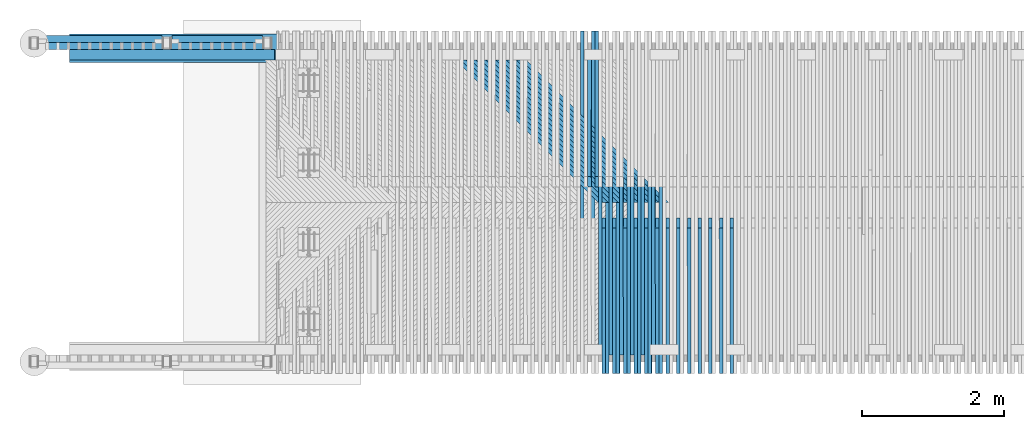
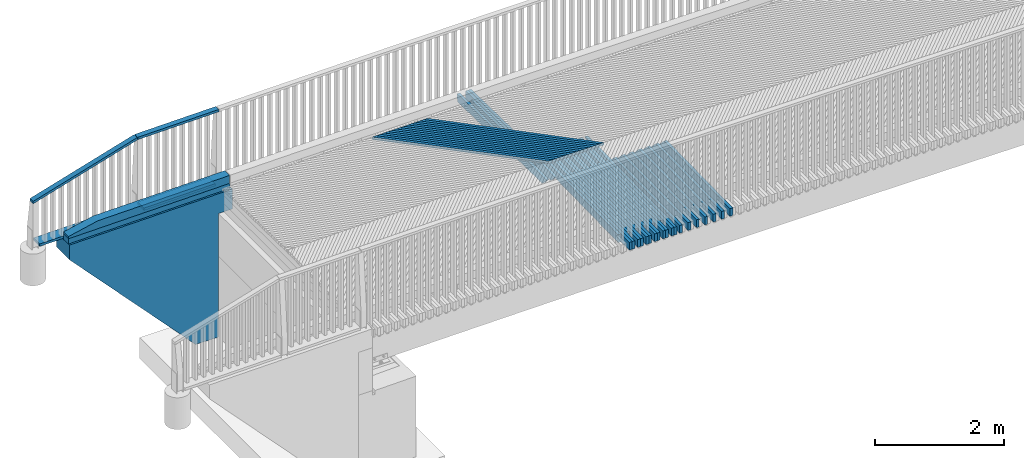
# One storey, part 20 of 47: 50 beams.
"""IFC2X3 building model written with IfcOpenShell, lengths in millimetres."""

from ifc_helpers import new_model, si_unit, frame, origin_with_axes, place, context, subcontext, project, spatial, faceted_brep, material, type_object, element, save


model = new_model("IFC2X3")

# Units and contexts
model_context = context("Model", 3, precision=1e-05, world=origin_with_axes())
body_context = subcontext(model_context, "Body", "Model", "MODEL_VIEW")
ifc_project = project(units=[si_unit("LENGTHUNIT", "METRE", prefix="MILLI"), si_unit("AREAUNIT", "SQUARE_METRE"), si_unit("VOLUMEUNIT", "CUBIC_METRE"), si_unit("MASSUNIT", "GRAM", prefix="KILO"), si_unit("TIMEUNIT", "SECOND"), si_unit("PLANEANGLEUNIT", "RADIAN"), si_unit("SOLIDANGLEUNIT", "STERADIAN"), si_unit("THERMODYNAMICTEMPERATUREUNIT", "DEGREE_CELSIUS"), si_unit("LUMINOUSINTENSITYUNIT", "LUMEN")], contexts=[model_context])

# Site, building, storey
site_placement = place(None, origin_with_axes())
site = spatial("IfcSite", under=ifc_project, at=site_placement, Name="Undefined", CompositionType="ELEMENT")
building_placement = place(site_placement, origin_with_axes())
building = spatial("IfcBuilding", under=site, at=building_placement, Name="Undefined", CompositionType="ELEMENT")
storey_placement = place(building_placement, origin_with_axes())
storey = spatial("IfcBuildingStorey", under=building, at=storey_placement, Name="Undefined", CompositionType="ELEMENT", Elevation=0.0)

# Beams
ifc_material_1 = material(Name="TIMBER/Timber_Undefined")
beam_type_1 = type_object("IfcBeamType", Name="95*45", PredefinedType="NOTDEFINED")
beam_1_placement = place(storey_placement, frame((-2047.34558165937, 64562.487908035, 4509.17778679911), z_axis=(0.0, 1.0, 0.0), x_axis=(0.999901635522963, 0.0, 0.0140256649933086)))
element("IfcBeam", 1, at=beam_1_placement, inside=storey, type_object=beam_type_1, material=ifc_material_1, Name="YLÄJOHDE", ObjectType="95*45", context=body_context, shape_type="Brep", body=[
    faceted_brep([(10.030991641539, 22.4999999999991, -47.5), (10.030991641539, 22.4999999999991, 47.5), (1460.17402369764, 22.4999999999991, 47.5), (1460.17402369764, 22.4999999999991, -47.5), (10.662208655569, -22.5, 47.5), (1460.80524071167, -22.5, 47.5), (10.662208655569, -22.5, -47.5), (1460.80524071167, -22.5, -47.5)], [[[0, 1, 2, 3]], [[1, 4, 5, 2]], [[4, 6, 7, 5]], [[6, 0, 3, 7]], [[5, 7, 3, 2]], [[6, 4, 1, 0]]]),
])
beam_2_placement = place(storey_placement, frame((-2040.59645881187, 64562.4900359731, 4510.12573356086), z_axis=(0.0, 1.0, 0.0), x_axis=(-0.958249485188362, 0.0, -0.285933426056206)))
element("IfcBeam", 2, at=beam_2_placement, inside=storey, type_object=beam_type_1, material=ifc_material_1, Name="YLÄJOHDE", ObjectType="95*45", context=body_context, shape_type="Brep", body=[
    faceted_brep([(4.00216176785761e-05, 22.5000000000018, -47.5), (4.00216176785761e-05, 22.5000000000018, 47.5), (1946.25728182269, 22.5000000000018, 47.5), (1946.25728182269, 22.5000000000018, -47.5), (13.4276539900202, -22.4999999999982, 47.5), (1959.6848957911, -22.4999999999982, 47.5), (13.4276539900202, -22.4999999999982, -47.5), (1959.6848957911, -22.4999999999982, -47.5)], [[[0, 1, 2, 3]], [[1, 4, 5, 2]], [[4, 6, 7, 5]], [[6, 0, 3, 7]], [[5, 7, 3, 2]], [[6, 4, 1, 0]]]),
])
beam_type_2 = type_object("IfcBeamType", Name="195*45", PredefinedType="NOTDEFINED")
beam_3_placement = place(storey_placement, frame((-3791.71869800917, 64612.4900299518, 3105.29183869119), z_axis=(0.0, 1.0, 0.0), x_axis=(0.999901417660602, 0.0, 0.0140411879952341)))
element("IfcBeam", 3, at=beam_3_placement, inside=storey, type_object=beam_type_2, material=ifc_material_1, Name="BEAM", ObjectType="195*45", context=body_context, shape_type="Brep", body=[
    faceted_brep([(0.0, 22.5, -97.5), (0.0, 22.5, 97.5), (1724.99699880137, 22.5, 97.5), (1724.99699880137, 22.5, -97.5), (0.0, -22.5, 97.5), (1724.99699880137, -22.4999999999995, 97.5), (0.0, -22.5, -97.5), (1724.99699880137, -22.4999999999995, -97.5)], [[[0, 1, 2, 3]], [[1, 4, 5, 2]], [[4, 6, 7, 5]], [[6, 0, 3, 7]], [[5, 7, 3, 2]], [[6, 4, 1, 0]]]),
])
beam_4_placement = place(storey_placement, frame((-1926.69935131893, 64612.4900299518, 3131.48945565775), z_axis=(0.0, 1.0, 0.0), x_axis=(0.999901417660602, 0.0, 0.0140411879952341)))
element("IfcBeam", 4, at=beam_4_placement, inside=storey, type_object=beam_type_2, material=ifc_material_1, Name="BEAM", ObjectType="195*45", context=body_context, shape_type="Brep", body=[
    faceted_brep([(0.0, 22.5, -97.5), (0.0, 22.5, 97.5), (1275.1508080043, 22.5, 97.5), (1275.1508080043, 22.5, -97.5), (0.0, -22.5, 97.5), (1275.15080800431, -22.4999999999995, 97.5), (0.0, -22.5, -97.5), (1275.15080800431, -22.4999999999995, -97.5)], [[[0, 1, 2, 3]], [[1, 4, 5, 2]], [[4, 6, 7, 5]], [[6, 0, 3, 7]], [[5, 7, 3, 2]], [[6, 4, 1, 0]]]),
])
beam_type_3 = type_object("IfcBeamType", Name="150*100", PredefinedType="NOTDEFINED")
beam_5_placement = place(storey_placement, frame((-3364.03058800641, 64439.9999999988, 3118.67572907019), z_axis=(0.0, -1.0, 0.0), x_axis=(0.999904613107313, 0.0, 0.0138117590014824)))
element("IfcBeam", 5, at=beam_5_placement, inside=storey, type_object=beam_type_3, material=ifc_material_1, Name="TÖRMÄYSJOHDE", ObjectType="150*100", context=body_context, shape_type="Brep", body=[
    faceted_brep([(-3.63797880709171e-12, 50.0, -75.0), (-3.63797880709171e-12, 50.0, 75.0), (2885.27521749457, 50.0, 75.0), (2885.27521749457, 50.0, -75.0), (0.0, -49.9999999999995, 75.0), (2885.27521749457, -49.9999999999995, 75.0), (0.0, -49.9999999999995, -75.0), (2885.27521749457, -49.9999999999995, -75.0)], [[[0, 1, 2, 3]], [[1, 4, 5, 2]], [[4, 6, 7, 5]], [[6, 0, 3, 7]], [[5, 7, 3, 2]], [[6, 4, 1, 0]]]),
])
beam_type_4 = type_object("IfcBeamType", Name="150*150", PredefinedType="NOTDEFINED")
beam_6_placement = place(storey_placement, frame((-3366.03588197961, 64439.9999999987, 3243.66334439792), z_axis=(0.0, -1.0, 0.0), x_axis=(0.999904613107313, 0.0, 0.0138117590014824)))
element("IfcBeam", 6, at=beam_6_placement, inside=storey, type_object=beam_type_4, material=ifc_material_1, Name="TÖRMÄYSJOHDE", ObjectType="150*150", context=body_context, shape_type="Brep", body=[
    faceted_brep([(0.0, -75.0000000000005, 75.0), (0.0, -75.0000000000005, -75.0), (2885.27521749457, -74.9999999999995, -75.0), (2885.27521749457, -74.9999999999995, 75.0), (2885.27521749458, 75.0, -75.0), (2885.27521749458, 75.0, 75.0), (529.511118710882, 75.0, -75.0), (529.511118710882, 75.0, 75.0), (4.54747350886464e-13, -33.1222400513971, 75.0), (4.54747350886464e-13, -33.1222400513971, -75.0)], [[[0, 1, 2, 3]], [[3, 2, 4, 5]], [[5, 4, 6, 7]], [[0, 3, 5, 7, 8]], [[1, 0, 8, 9]], [[4, 2, 1, 9, 6]], [[8, 7, 6, 9]]]),
])
ifc_material_2 = material(Name="CONCRETE/Concrete_Undefined")
beam_type_5 = type_object("IfcBeamType", Name="2800*400", PredefinedType="NOTDEFINED")
beam_7_placement = place(storey_placement, frame((-430.340033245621, 64530.0, 1712.66804762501), z_axis=(-0.0140428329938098, 0.0, 0.999901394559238), x_axis=(-0.999901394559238, 0.0, -0.0140428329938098)))
element("IfcBeam", 7, at=beam_7_placement, inside=storey, type_object=beam_type_5, material=ifc_material_2, Name="SIIPIMUURI", ObjectType="2800*400", context=body_context, shape_type="Brep", body=[
    faceted_brep([(5.63100911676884e-07, 200.0, 1400.0), (0.280884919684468, -200.000000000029, 1380.0), (2915.56834818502, -200.0, 1380.0), (2915.28746382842, 200.0, 1400.0), (270.457242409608, 199.999999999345, -54.8754727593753), (270.457242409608, -200.0, -54.8754727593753), (255.29098277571, -200.0, 1025.01803336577), (255.29098277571, 199.999999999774, 1025.01803336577), (288.066954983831, 200.0, -1308.75182153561), (288.066954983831, -200.0, -1308.75182153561), (697.173583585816, 200.0, -1303.00623892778), (697.173583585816, -200.0, -1303.00623892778), (2919.22031514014, 200.0, 1119.96651154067), (2919.22031514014, -200.0, 1119.96651154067), (5.31563413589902, -200.0, 1021.50732511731), (5.31563413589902, 199.999999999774, 1021.50732511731)], [[[0, 1, 2, 3]], [[4, 5, 6, 7]], [[8, 9, 5, 4]], [[10, 11, 9, 8]], [[12, 13, 11, 10]], [[13, 12, 3, 2]], [[14, 6, 5, 9, 11, 13, 2, 1]], [[7, 6, 14, 15]], [[3, 12, 10, 8, 4, 7, 15, 0]], [[15, 14, 1, 0]]]),
])
beam_type_6 = type_object("IfcBeamType", Name="150*50", PredefinedType="NOTDEFINED")
beam_8_placement = place(storey_placement, frame((3849.18317563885, 64771.443807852, 3073.67904210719), z_axis=(-0.00697445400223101, 0.0199960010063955, 0.99977573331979), x_axis=(-0.00013948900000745, -0.999800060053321, 0.0199955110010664)))
element("IfcBeam", 8, at=beam_8_placement, inside=storey, type_object=beam_type_6, material=ifc_material_1, Name="BEAM", ObjectType="150*50", context=body_context, shape_type="Brep", body=[
    faceted_brep([(6.18456397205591e-09, -24.9999999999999, -75.0000000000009), (6.18456397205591e-09, 24.9999999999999, -75.0), (2633.00494983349, 25.0000000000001, -75.0000000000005), (2633.00495050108, -24.9999999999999, -75.0000000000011), (-6.1918399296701e-09, -24.9999999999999, 74.9999999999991), (-6.19911588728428e-09, 25.0, 75.0), (2408.42506497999, 24.9999999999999, 75.0), (2768.5924870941, 25.0, 60.5875375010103), (2768.59248707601, -25.0, 60.5875366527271), (2408.4250638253, -25.0, 74.9999999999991)], [[[0, 1, 2, 3]], [[0, 4, 5, 1]], [[2, 1, 5, 6, 7]], [[3, 2, 7, 8]], [[4, 0, 3, 8, 9]], [[5, 4, 9, 6]], [[8, 7, 6, 9]]]),
])
beam_9_placement = place(storey_placement, frame((4049.24684445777, 64771.4438078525, 3075.02403244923), z_axis=(-0.0065591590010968, 0.0199960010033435, 0.999778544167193), x_axis=(-0.000131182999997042, -0.999800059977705, 0.0199955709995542)))
element("IfcBeam", 9, at=beam_9_placement, inside=storey, type_object=beam_type_6, material=ifc_material_1, Name="BEAM", ObjectType="150*50", context=body_context, shape_type="Brep", body=[
    faceted_brep([(6.18456397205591e-09, -24.9999999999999, -75.0000000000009), (-6.1918399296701e-09, -24.9999999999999, 74.9999999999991), (-6.19911588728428e-09, 25.0, 75.0), (6.18456397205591e-09, 24.9999999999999, -75.0), (2186.42645864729, 25.0, -75.0), (2186.42645915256, -25.0000000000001, -75.0), (2047.96936034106, -25.0000000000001, 75.0), (2047.96935975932, 25.0, 75.0)], [[[0, 1, 2, 3]], [[0, 3, 4, 5]], [[1, 0, 5, 6]], [[2, 1, 6, 7]], [[3, 2, 7, 4]], [[6, 5, 4, 7]]]),
])
beam_10_placement = place(storey_placement, frame((3949.19517475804, 64513.4953923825, 3079.51813535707), z_axis=(-0.00672527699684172, 0.0199960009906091, 0.999777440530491), x_axis=(-0.000134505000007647, -0.999800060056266, 0.0199955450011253)))
element("IfcBeam", 10, at=beam_10_placement, inside=storey, type_object=beam_type_6, material=ifc_material_1, Name="BEAM", ObjectType="150*50", context=body_context, shape_type="Brep", body=[
    faceted_brep([(6.18456397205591e-09, -24.9999999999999, -75.0000000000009), (-6.1918399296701e-09, -24.9999999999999, 74.9999999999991), (-6.19911588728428e-09, 25.0, 75.0), (6.18456397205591e-09, 24.9999999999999, -75.0), (1928.42646506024, 25.0, -75.0), (1928.4264649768, -24.9999999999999, -75.0), (1789.96936577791, -24.9999999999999, 75.0), (1789.96936586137, 25.0, 75.0000000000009)], [[[0, 1, 2, 3]], [[0, 3, 4, 5]], [[1, 0, 5, 6]], [[2, 1, 6, 7]], [[3, 2, 7, 4]], [[6, 5, 4, 7]]]),
])
beam_11_placement = place(storey_placement, frame((3999.2085009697, 64771.443807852, 3074.69486708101), z_axis=(-0.00672527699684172, 0.0199960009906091, 0.999777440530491), x_axis=(-0.000134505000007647, -0.999800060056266, 0.0199955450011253)))
element("IfcBeam", 11, at=beam_11_placement, inside=storey, type_object=beam_type_6, material=ifc_material_1, Name="BEAM", ObjectType="150*50", context=body_context, shape_type="Brep", body=[
    faceted_brep([(6.18456397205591e-09, -24.9999999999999, -75.0000000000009), (6.18456397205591e-09, 24.9999999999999, -75.0), (2633.00494983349, 25.0000000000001, -75.0000000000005), (2633.00495050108, -24.9999999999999, -75.0000000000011), (-6.1918399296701e-09, -24.9999999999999, 74.9999999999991), (-6.19911588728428e-09, 25.0, 75.0), (2408.42506497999, 24.9999999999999, 75.0), (2768.5924870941, 25.0, 60.5875375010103), (2768.59248707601, -25.0, 60.5875366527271), (2408.4250638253, -25.0, 74.9999999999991)], [[[0, 1, 2, 3]], [[0, 4, 5, 1]], [[2, 1, 5, 6, 7]], [[3, 2, 7, 8]], [[4, 0, 3, 8, 9]], [[5, 4, 9, 6]], [[8, 7, 6, 9]]]),
])
beam_12_placement = place(storey_placement, frame((4199.27249879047, 59958.5561921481, 3075.98999490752), z_axis=(-0.00630998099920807, -0.0199960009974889, 0.99978014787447), x_axis=(-0.000126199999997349, 0.999800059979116, 0.0199956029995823)))
element("IfcBeam", 12, at=beam_12_placement, inside=storey, type_object=beam_type_6, material=ifc_material_1, Name="BEAM", ObjectType="150*50", context=body_context, shape_type="Brep", body=[
    faceted_brep([(6.18456397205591e-09, -24.9999999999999, -75.0000000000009), (-6.1918399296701e-09, -24.9999999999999, 74.9999999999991), (-6.19911588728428e-09, 25.0, 75.0), (6.18456397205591e-09, 24.9999999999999, -75.0), (2633.00494983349, 25.0000000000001, -75.0000000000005), (2633.00495050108, -24.9999999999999, -75.0000000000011), (2768.59248707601, -25.0, 60.5875366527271), (2408.42499905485, -25.0, 74.9999999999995), (2408.42501428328, 25.0000000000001, 74.9999999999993), (2768.5924870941, 25.0, 60.5875375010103)], [[[0, 1, 2, 3]], [[0, 3, 4, 5]], [[1, 0, 5, 6, 7]], [[2, 1, 7, 8]], [[4, 3, 2, 8, 9]], [[5, 4, 9, 6]], [[8, 7, 6, 9]]]),
])
beam_13_placement = place(storey_placement, frame((4099.22195227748, 60216.5046076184, 3080.50903385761), z_axis=(-0.0064760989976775, -0.0199960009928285, 0.999779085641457), x_axis=(-0.000129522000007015, 0.999800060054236, 0.0199955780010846)))
element("IfcBeam", 13, at=beam_13_placement, inside=storey, type_object=beam_type_6, material=ifc_material_1, Name="BEAM", ObjectType="150*50", context=body_context, shape_type="Brep", body=[
    faceted_brep([(6.18456397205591e-09, -24.9999999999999, -75.0000000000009), (-6.1918399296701e-09, -24.9999999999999, 74.9999999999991), (-6.19911588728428e-09, 25.0, 75.0), (6.18456397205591e-09, 24.9999999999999, -75.0), (2375.00494220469, 24.9999999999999, -75.0000000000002), (2375.00494218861, -25.0, -75.0), (2510.59248711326, -25.0, 60.5875455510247), (2150.42518973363, -25.0, 75.0000000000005), (2150.42518840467, 25.0, 74.9999999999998), (2510.59248707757, 25.0, 60.5875454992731)], [[[0, 1, 2, 3]], [[0, 3, 4, 5]], [[1, 0, 5, 6, 7]], [[2, 1, 7, 8]], [[4, 3, 2, 8, 9]], [[5, 4, 9, 6]], [[8, 7, 6, 9]]]),
])
beam_14_placement = place(storey_placement, frame((4149.23493195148, 59958.5561921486, 3075.67330631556), z_axis=(-0.0064760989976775, -0.0199960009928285, 0.999779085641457), x_axis=(-0.000129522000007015, 0.999800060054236, 0.0199955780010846)))
element("IfcBeam", 14, at=beam_14_placement, inside=storey, type_object=beam_type_6, material=ifc_material_1, Name="BEAM", ObjectType="150*50", context=body_context, shape_type="Brep", body=[
    faceted_brep([(6.18456397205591e-09, -24.9999999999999, -75.0000000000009), (-6.1918399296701e-09, -24.9999999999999, 74.9999999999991), (-6.19911588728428e-09, 25.0, 75.0), (6.18456397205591e-09, 24.9999999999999, -75.0), (2186.42645915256, -25.0000000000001, -75.0), (2047.96936034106, -25.0000000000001, 75.0), (2047.96935975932, 25.0, 75.0), (2186.42645864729, 25.0, -75.0)], [[[0, 1, 2, 3]], [[1, 0, 4, 5]], [[2, 1, 5, 6]], [[3, 2, 6, 7]], [[0, 3, 7, 4]], [[5, 4, 7, 6]]]),
])
beam_15_placement = place(storey_placement, frame((4349.29838921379, 59958.5561921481, 3076.91856599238), z_axis=(-0.00606080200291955, -0.0199960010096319, 0.999781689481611), x_axis=(-0.000121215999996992, 0.999800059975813, 0.0199956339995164)))
element("IfcBeam", 15, at=beam_15_placement, inside=storey, type_object=beam_type_6, material=ifc_material_1, Name="BEAM", ObjectType="150*50", context=body_context, shape_type="Brep", body=[
    faceted_brep([(6.18456397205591e-09, -24.9999999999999, -75.0000000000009), (-6.1918399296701e-09, -24.9999999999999, 74.9999999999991), (-6.19911588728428e-09, 25.0, 75.0), (6.18456397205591e-09, 24.9999999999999, -75.0), (2633.00494983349, 25.0000000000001, -75.0000000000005), (2633.00495050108, -24.9999999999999, -75.0000000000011), (2768.59248707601, -25.0, 60.5875366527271), (2408.42499905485, -25.0, 74.9999999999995), (2408.42501428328, 25.0000000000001, 74.9999999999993), (2768.5924870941, 25.0, 60.5875375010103)], [[[0, 1, 2, 3]], [[0, 3, 4, 5]], [[1, 0, 5, 6, 7]], [[2, 1, 7, 8]], [[4, 3, 2, 8, 9]], [[5, 4, 9, 6]], [[8, 7, 6, 9]]]),
])
beam_16_placement = place(storey_placement, frame((4249.24897210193, 60216.5046076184, 3081.46254070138), z_axis=(-0.0062269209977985, -0.0199960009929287, 0.999780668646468), x_axis=(-0.000124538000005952, 0.999800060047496, 0.0199956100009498)))
element("IfcBeam", 16, at=beam_16_placement, inside=storey, type_object=beam_type_6, material=ifc_material_1, Name="BEAM", ObjectType="150*50", context=body_context, shape_type="Brep", body=[
    faceted_brep([(6.18456397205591e-09, -24.9999999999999, -75.0000000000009), (-6.1918399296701e-09, -24.9999999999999, 74.9999999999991), (-6.19911588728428e-09, 25.0, 75.0), (6.18456397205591e-09, 24.9999999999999, -75.0), (2375.00494220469, 24.9999999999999, -75.0000000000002), (2375.00494218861, -25.0, -75.0), (2510.59248711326, -25.0, 60.5875455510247), (2150.42518973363, -25.0, 75.0000000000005), (2150.42518840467, 25.0, 74.9999999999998), (2510.59248707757, 25.0, 60.5875454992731)], [[[0, 1, 2, 3]], [[0, 3, 4, 5]], [[1, 0, 5, 6, 7]], [[2, 1, 7, 8]], [[4, 3, 2, 8, 9]], [[5, 4, 9, 6]], [[8, 7, 6, 9]]]),
])
beam_17_placement = place(storey_placement, frame((4299.26074499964, 59958.5561921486, 3076.61434842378), z_axis=(-0.0062269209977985, -0.0199960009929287, 0.999780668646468), x_axis=(-0.000124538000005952, 0.999800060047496, 0.0199956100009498)))
element("IfcBeam", 17, at=beam_17_placement, inside=storey, type_object=beam_type_6, material=ifc_material_1, Name="BEAM", ObjectType="150*50", context=body_context, shape_type="Brep", body=[
    faceted_brep([(6.18456397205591e-09, -24.9999999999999, -75.0000000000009), (-6.1918399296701e-09, -24.9999999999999, 74.9999999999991), (-6.19911588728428e-09, 25.0, 75.0), (6.18456397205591e-09, 24.9999999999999, -75.0), (2186.42645915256, -25.0000000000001, -75.0), (2047.96936034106, -25.0000000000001, 75.0), (2047.96935975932, 25.0, 75.0), (2186.42645864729, 25.0, -75.0)], [[[0, 1, 2, 3]], [[1, 0, 4, 5]], [[2, 1, 5, 6]], [[3, 2, 6, 7]], [[0, 3, 7, 4]], [[5, 4, 7, 6]]]),
])
beam_18_placement = place(storey_placement, frame((4499.3245064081, 59958.5561921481, 3077.80974564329), z_axis=(-0.00581162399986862, -0.0199960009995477, 0.999783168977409), x_axis=(-0.000116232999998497, 0.999800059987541, 0.0199956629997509)))
element("IfcBeam", 18, at=beam_18_placement, inside=storey, type_object=beam_type_6, material=ifc_material_1, Name="BEAM", ObjectType="150*50", context=body_context, shape_type="Brep", body=[
    faceted_brep([(6.18456397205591e-09, -24.9999999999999, -75.0000000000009), (-6.1918399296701e-09, -24.9999999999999, 74.9999999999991), (-6.19911588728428e-09, 25.0, 75.0), (6.18456397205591e-09, 24.9999999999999, -75.0), (2633.00494983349, 25.0000000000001, -75.0000000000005), (2633.00495050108, -24.9999999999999, -75.0000000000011), (2768.59248707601, -25.0, 60.5875366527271), (2408.42499905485, -25.0, 74.9999999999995), (2408.42501428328, 25.0000000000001, 74.9999999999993), (2768.5924870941, 25.0, 60.5875375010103)], [[[0, 1, 2, 3]], [[0, 3, 4, 5]], [[1, 0, 5, 6, 7]], [[2, 1, 7, 8]], [[4, 3, 2, 8, 9]], [[5, 4, 9, 6]], [[8, 7, 6, 9]]]),
])
beam_19_placement = place(storey_placement, frame((4399.27622491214, 60216.5046076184, 3082.378655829), z_axis=(-0.0059777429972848, -0.0199960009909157, 0.999782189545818), x_axis=(-0.000119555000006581, 0.999800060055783, 0.0199956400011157)))
element("IfcBeam", 19, at=beam_19_placement, inside=storey, type_object=beam_type_6, material=ifc_material_1, Name="BEAM", ObjectType="150*50", context=body_context, shape_type="Brep", body=[
    faceted_brep([(6.18456397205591e-09, -24.9999999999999, -75.0000000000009), (-6.1918399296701e-09, -24.9999999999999, 74.9999999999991), (-6.19911588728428e-09, 25.0, 75.0), (6.18456397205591e-09, 24.9999999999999, -75.0), (2375.00494220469, 24.9999999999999, -75.0000000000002), (2375.00494218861, -25.0, -75.0), (2510.59248711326, -25.0, 60.5875455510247), (2150.42518973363, -25.0, 75.0000000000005), (2150.42518840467, 25.0, 74.9999999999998), (2510.59248707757, 25.0, 60.5875454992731)], [[[0, 1, 2, 3]], [[0, 3, 4, 5]], [[1, 0, 5, 6, 7]], [[2, 1, 7, 8]], [[4, 3, 2, 8, 9]], [[5, 4, 9, 6]], [[8, 7, 6, 9]]]),
])
beam_20_placement = place(storey_placement, frame((4449.28678792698, 59958.5561921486, 3077.51799911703), z_axis=(-0.0059777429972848, -0.0199960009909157, 0.999782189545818), x_axis=(-0.000119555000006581, 0.999800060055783, 0.0199956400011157)))
element("IfcBeam", 20, at=beam_20_placement, inside=storey, type_object=beam_type_6, material=ifc_material_1, Name="BEAM", ObjectType="150*50", context=body_context, shape_type="Brep", body=[
    faceted_brep([(6.18456397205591e-09, -24.9999999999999, -75.0000000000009), (-6.1918399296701e-09, -24.9999999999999, 74.9999999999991), (-6.19911588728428e-09, 25.0, 75.0), (6.18456397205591e-09, 24.9999999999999, -75.0), (2186.42645915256, -25.0000000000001, -75.0), (2047.96936034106, -25.0000000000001, 75.0), (2047.96935975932, 25.0, 75.0), (2186.42645864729, 25.0, -75.0)], [[[0, 1, 2, 3]], [[1, 0, 4, 5]], [[2, 1, 5, 6]], [[3, 2, 6, 7]], [[0, 3, 7, 4]], [[5, 4, 7, 6]]]),
])
beam_21_placement = place(storey_placement, frame((4649.3508410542, 59958.5561921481, 3078.66353380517), z_axis=(-0.0055624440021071, -0.0199960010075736, 0.9997845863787), x_axis=(-0.00011124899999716, 0.999800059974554, 0.0199956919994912)))
element("IfcBeam", 21, at=beam_21_placement, inside=storey, type_object=beam_type_6, material=ifc_material_1, Name="BEAM", ObjectType="150*50", context=body_context, shape_type="Brep", body=[
    faceted_brep([(6.18456397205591e-09, -24.9999999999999, -75.0000000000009), (-6.1918399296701e-09, -24.9999999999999, 74.9999999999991), (-6.19911588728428e-09, 25.0, 75.0), (6.18456397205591e-09, 24.9999999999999, -75.0), (2633.00494983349, 25.0000000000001, -75.0000000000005), (2633.00495050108, -24.9999999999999, -75.0000000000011), (2768.59248707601, -25.0, 60.5875366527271), (2408.42499905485, -25.0, 74.9999999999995), (2408.42501428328, 25.0000000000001, 74.9999999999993), (2768.5924870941, 25.0, 60.5875375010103)], [[[0, 1, 2, 3]], [[0, 3, 4, 5]], [[1, 0, 5, 6, 7]], [[2, 1, 7, 8]], [[4, 3, 2, 8, 9]], [[5, 4, 9, 6]], [[8, 7, 6, 9]]]),
])
beam_22_placement = place(storey_placement, frame((4549.30370138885, 60216.5046076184, 3083.25737918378), z_axis=(-0.00572856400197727, -0.0199960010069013, 0.999783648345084), x_axis=(-0.000114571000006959, 0.999800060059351, 0.0199956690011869)))
element("IfcBeam", 22, at=beam_22_placement, inside=storey, type_object=beam_type_6, material=ifc_material_1, Name="BEAM", ObjectType="150*50", context=body_context, shape_type="Brep", body=[
    faceted_brep([(6.18456397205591e-09, -24.9999999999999, -75.0000000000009), (-6.1918399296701e-09, -24.9999999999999, 74.9999999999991), (-6.19911588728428e-09, 25.0, 75.0), (6.18456397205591e-09, 24.9999999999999, -75.0), (2375.00494220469, 24.9999999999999, -75.0000000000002), (2375.00494218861, -25.0, -75.0), (2510.59248711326, -25.0, 60.5875455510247), (2150.42518973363, -25.0, 75.0000000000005), (2150.42518840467, 25.0, 74.9999999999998), (2510.59248707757, 25.0, 60.5875454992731)], [[[0, 1, 2, 3]], [[0, 3, 4, 5]], [[1, 0, 5, 6, 7]], [[2, 1, 7, 8]], [[4, 3, 2, 8, 9]], [[5, 4, 9, 6]], [[8, 7, 6, 9]]]),
])
beam_23_placement = place(storey_placement, frame((4599.31305141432, 59958.5561921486, 3078.38425833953), z_axis=(-0.00572856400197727, -0.0199960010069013, 0.999783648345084), x_axis=(-0.000114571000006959, 0.999800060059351, 0.0199956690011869)))
element("IfcBeam", 23, at=beam_23_placement, inside=storey, type_object=beam_type_6, material=ifc_material_1, Name="BEAM", ObjectType="150*50", context=body_context, shape_type="Brep", body=[
    faceted_brep([(6.18456397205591e-09, -24.9999999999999, -75.0000000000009), (-6.1918399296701e-09, -24.9999999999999, 74.9999999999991), (-6.19911588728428e-09, 25.0, 75.0), (6.18456397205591e-09, 24.9999999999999, -75.0), (2186.42645915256, -25.0000000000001, -75.0), (2047.96936034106, -25.0000000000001, 75.0), (2047.96935975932, 25.0, 75.0), (2186.42645864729, 25.0, -75.0)], [[[0, 1, 2, 3]], [[1, 0, 4, 5]], [[2, 1, 5, 6]], [[3, 2, 6, 7]], [[0, 3, 7, 4]], [[5, 4, 7, 6]]]),
])
beam_24_placement = place(storey_placement, frame((4799.3773838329, 59958.5561921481, 3079.47993042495), z_axis=(-0.00531326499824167, -0.0199960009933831, 0.999785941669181), x_axis=(-0.000106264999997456, 0.999800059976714, 0.0199957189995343)))
element("IfcBeam", 24, at=beam_24_placement, inside=storey, type_object=beam_type_6, material=ifc_material_1, Name="BEAM", ObjectType="150*50", context=body_context, shape_type="Brep", body=[
    faceted_brep([(6.18456397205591e-09, -24.9999999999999, -75.0000000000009), (-6.1918399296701e-09, -24.9999999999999, 74.9999999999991), (-6.19911588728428e-09, 25.0, 75.0), (6.18456397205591e-09, 24.9999999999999, -75.0), (2633.00494983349, 25.0000000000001, -75.0000000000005), (2633.00495050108, -24.9999999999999, -75.0000000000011), (2768.59248707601, -25.0, 60.5875366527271), (2408.42499905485, -25.0, 74.9999999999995), (2408.42501428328, 25.0000000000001, 74.9999999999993), (2768.5924870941, 25.0, 60.5875375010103)], [[[0, 1, 2, 3]], [[0, 3, 4, 5]], [[1, 0, 5, 6, 7]], [[2, 1, 7, 8]], [[4, 3, 2, 8, 9]], [[5, 4, 9, 6]], [[8, 7, 6, 9]]]),
])
beam_25_placement = place(storey_placement, frame((4699.3313922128, 60216.5046076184, 3084.09871071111), z_axis=(-0.00547938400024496, -0.0199960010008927, 0.999785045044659), x_axis=(-0.000109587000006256, 0.999800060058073, 0.0199956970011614)))
element("IfcBeam", 25, at=beam_25_placement, inside=storey, type_object=beam_type_6, material=ifc_material_1, Name="BEAM", ObjectType="150*50", context=body_context, shape_type="Brep", body=[
    faceted_brep([(6.18456397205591e-09, -24.9999999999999, -75.0000000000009), (-6.1918399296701e-09, -24.9999999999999, 74.9999999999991), (-6.19911588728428e-09, 25.0, 75.0), (6.18456397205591e-09, 24.9999999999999, -75.0), (2375.00494220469, 24.9999999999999, -75.0000000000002), (2375.00494218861, -25.0, -75.0), (2510.59248711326, -25.0, 60.5875455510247), (2150.42518973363, -25.0, 75.0000000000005), (2150.42518840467, 25.0, 74.9999999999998), (2510.59248707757, 25.0, 60.5875454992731)], [[[0, 1, 2, 3]], [[0, 3, 4, 5]], [[1, 0, 5, 6, 7]], [[2, 1, 7, 8]], [[4, 3, 2, 8, 9]], [[5, 4, 9, 6]], [[8, 7, 6, 9]]]),
])
beam_26_placement = place(storey_placement, frame((4749.33952614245, 59958.5561921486, 3079.21312603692), z_axis=(-0.00547938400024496, -0.0199960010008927, 0.999785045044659), x_axis=(-0.000109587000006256, 0.999800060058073, 0.0199956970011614)))
element("IfcBeam", 26, at=beam_26_placement, inside=storey, type_object=beam_type_6, material=ifc_material_1, Name="BEAM", ObjectType="150*50", context=body_context, shape_type="Brep", body=[
    faceted_brep([(6.18456397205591e-09, -24.9999999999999, -75.0000000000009), (-6.1918399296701e-09, -24.9999999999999, 74.9999999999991), (-6.19911588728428e-09, 25.0, 75.0), (6.18456397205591e-09, 24.9999999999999, -75.0), (2186.42645915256, -25.0000000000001, -75.0), (2047.96936034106, -25.0000000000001, 75.0), (2047.96935975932, 25.0, 75.0), (2186.42645864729, 25.0, -75.0)], [[[0, 1, 2, 3]], [[1, 0, 4, 5]], [[2, 1, 5, 6]], [[3, 2, 6, 7]], [[0, 3, 7, 4]], [[5, 4, 7, 6]]]),
])
beam_27_placement = place(storey_placement, frame((4949.40412542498, 59958.5561921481, 3080.25893545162), z_axis=(-0.00506408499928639, -0.0199960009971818, 0.999787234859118), x_axis=(-0.000101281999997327, 0.999800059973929, 0.0199957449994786)))
element("IfcBeam", 27, at=beam_27_placement, inside=storey, type_object=beam_type_6, material=ifc_material_1, Name="BEAM", ObjectType="150*50", context=body_context, shape_type="Brep", body=[
    faceted_brep([(6.18456397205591e-09, -24.9999999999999, -75.0000000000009), (-6.1918399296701e-09, -24.9999999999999, 74.9999999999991), (-6.19911588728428e-09, 25.0, 75.0), (6.18456397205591e-09, 24.9999999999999, -75.0), (2633.00494983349, 25.0000000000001, -75.0000000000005), (2633.00495050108, -24.9999999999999, -75.0000000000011), (2768.59248707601, -25.0, 60.5875366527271), (2408.42499905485, -25.0, 74.9999999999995), (2408.42501428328, 25.0000000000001, 74.9999999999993), (2768.5924870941, 25.0, 60.5875375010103)], [[[0, 1, 2, 3]], [[0, 3, 4, 5]], [[1, 0, 5, 6, 7]], [[2, 1, 7, 8]], [[4, 3, 2, 8, 9]], [[5, 4, 9, 6]], [[8, 7, 6, 9]]]),
])
beam_28_placement = place(storey_placement, frame((4849.3592880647, 60216.5046076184, 3084.9026503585), z_axis=(-0.00523020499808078, -0.0199960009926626, 0.999786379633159), x_axis=(-0.000104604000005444, 0.999800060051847, 0.0199957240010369)))
element("IfcBeam", 28, at=beam_28_placement, inside=storey, type_object=beam_type_6, material=ifc_material_1, Name="BEAM", ObjectType="150*50", context=body_context, shape_type="Brep", body=[
    faceted_brep([(6.18456397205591e-09, -24.9999999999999, -75.0000000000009), (-6.1918399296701e-09, -24.9999999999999, 74.9999999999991), (-6.19911588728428e-09, 25.0, 75.0), (6.18456397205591e-09, 24.9999999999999, -75.0), (2375.00494220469, 24.9999999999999, -75.0000000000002), (2375.00494218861, -25.0, -75.0), (2510.59248711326, -25.0, 60.5875455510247), (2150.42518973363, -25.0, 75.0000000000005), (2150.42518840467, 25.0, 74.9999999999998), (2510.59248707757, 25.0, 60.5875454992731)], [[[0, 1, 2, 3]], [[0, 3, 4, 5]], [[1, 0, 5, 6, 7]], [[2, 1, 7, 8]], [[4, 3, 2, 8, 9]], [[5, 4, 9, 6]], [[8, 7, 6, 9]]]),
])
for number, where, z_axis, x_axis, name in (
    (29, (4899.36620279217, 59958.5561921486, 3080.00460215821), (-0.00523020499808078, -0.0199960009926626, 0.999786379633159), (-0.000104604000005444, 0.999800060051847, 0.0199957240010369), "BEAM"),
    (30, (5049.39307204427, 59958.5561921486, 3080.75868665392), (-0.00498102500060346, -0.0199960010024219, 0.999787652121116), (-9.96200000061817e-05, 0.999800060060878, 0.0199957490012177), "BEAM"),
    (31, (5199.4201245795, 59958.5561921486, 3081.47537947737), (-0.00473184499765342, -0.0199960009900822, 0.99978886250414), (-9.46370000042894e-05, 0.999800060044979, 0.0199957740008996), "BEAM"),
    (32, (5349.44735107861, 59958.5561921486, 3082.15468058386), (-0.00448266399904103, -0.0199960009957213, 0.99979001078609), (-8.96530000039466e-05, 0.999800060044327, 0.0199957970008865), "BEAM"),
    (33, (5499.47474222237, 59958.5561921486, 3082.79658993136), (-0.00423348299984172, -0.019996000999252, 0.999791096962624), (-8.46690000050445e-05, 0.999800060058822, 0.0199958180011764), "BEAM"),
    (34, (5649.50228869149, 59958.5561921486, 3083.40110748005), (-0.00398430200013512, -0.0199960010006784, 0.999792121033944), (-7.96860000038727e-05, 0.999800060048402, 0.019995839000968), "BEAM"),
    (35, (5799.52998116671, 59958.5561921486, 3083.96823319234), (-0.0037351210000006, -0.0199960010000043, 0.999793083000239), (-7.47020000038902e-05, 0.999800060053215, 0.0199958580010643), "BEAM"),
    (36, (5949.55781032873, 59958.5561921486, 3084.49796703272), (-0.00348593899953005, -0.019996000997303, 0.999793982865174), (-6.97180000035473e-05, 0.999800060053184, 0.0199958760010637), "BEAM"),
):
    element("IfcBeam", number, at=place(storey_placement, frame(where, z_axis=z_axis, x_axis=x_axis)), inside=storey, type_object=beam_type_6, material=ifc_material_1, Name=name, ObjectType="150*50", context=body_context, shape_type="Brep", body=[
        faceted_brep([(6.18456397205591e-09, -24.9999999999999, -75.0000000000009), (-6.1918399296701e-09, -24.9999999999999, 74.9999999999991), (-6.19911588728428e-09, 25.0, 75.0), (6.18456397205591e-09, 24.9999999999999, -75.0), (2186.42645915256, -25.0000000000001, -75.0), (2047.96936034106, -25.0000000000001, 75.0), (2047.96935975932, 25.0, 75.0), (2186.42645864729, 25.0, -75.0)], [[[0, 1, 2, 3]], [[1, 0, 4, 5]], [[2, 1, 5, 6]], [[3, 2, 6, 7]], [[0, 3, 7, 4]], [[5, 4, 7, 6]]]),
    ])
beam_type_7 = type_object("IfcBeamType", Name="50*50", PredefinedType="NOTDEFINED")
for number, where, z_axis, x_axis, name in (
    (37, (5023.95240158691, 62365.4998996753, 3228.76716320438), (0.707169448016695, 0.706981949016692, -0.00937526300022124), (-0.70701202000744, 0.706948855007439, -0.018902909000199), "BEAM"),
    (38, (4953.22905270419, 62365.4998996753, 3228.41344108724), (0.707170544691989, 0.706981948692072, -0.00929219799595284), (-0.70700979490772, 0.706948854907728, -0.018985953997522), "BEAM"),
    (39, (4882.50574585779, 62365.4998996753, 3228.05141176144), (0.707171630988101, 0.706981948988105, -0.00920913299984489), (-0.707007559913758, 0.706948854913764, -0.0190689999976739), "BEAM"),
    (40, (4811.78248202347, 62365.4998996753, 3227.68107523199), (0.707172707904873, 0.7069819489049, -0.00912606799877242), (-0.707005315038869, 0.706948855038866, -0.0191520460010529), "BEAM"),
    (41, (4741.05926217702, 62365.4998996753, 3227.30243150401), (0.707173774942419, 0.706981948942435, -0.00904300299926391), (-0.707003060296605, 0.706948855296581, -0.0192350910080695), "BEAM"),
    (42, (4670.33608729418, 62365.4998996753, 3226.91548058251), (0.707174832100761, 0.706981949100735, -0.00895993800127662), (-0.707000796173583, 0.70694885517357, -0.019318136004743), "BEAM"),
    (43, (4599.61295835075, 62365.4998996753, 3226.52022247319), (0.707175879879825, 0.706981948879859, -0.00887687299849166), (-0.706998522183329, 0.706948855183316, -0.0194011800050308), "BEAM"),
    (44, (4528.88987632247, 62365.4998996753, 3226.11665718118), (0.707176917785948, 0.706981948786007, -0.00879380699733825), (-0.706996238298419, 0.706948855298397, -0.0194842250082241), "BEAM"),
    (45, (4458.16684218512, 62365.4998996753, 3225.70478471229), (0.707177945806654, 0.706981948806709, -0.00871074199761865), (-0.706993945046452, 0.706948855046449, -0.0195672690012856), "BEAM"),
    (46, (4387.44385691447, 62365.4998996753, 3225.284605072), (0.707178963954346, 0.70698194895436, -0.00862767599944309), (-0.706991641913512, 0.706948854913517, -0.0196503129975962), "BEAM"),
    (47, (4316.72092148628, 62365.4998996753, 3224.85611826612), (0.707179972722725, 0.706981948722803, -0.00854460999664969), (-0.706989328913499, 0.706948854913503, -0.0197333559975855), "BEAM"),
    (48, (4245.99803687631, 62365.4998996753, 3224.41932430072), (0.707180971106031, 0.706981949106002, -0.0084615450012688), (-0.706987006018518, 0.706948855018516, -0.019816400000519), "BEAM"),
    (49, (4175.27520406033, 62365.4998996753, 3223.97422318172), (0.707181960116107, 0.706981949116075, -0.00837847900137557), (-0.706984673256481, 0.706948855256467, -0.0198994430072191), "BEAM"),
    (50, (4104.5524240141, 62365.4998996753, 3223.52081491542), (0.707182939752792, 0.706981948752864, -0.00829541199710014), (-0.706982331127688, 0.706948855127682, -0.019982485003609), "BEAM"),
):
    element("IfcBeam", number, at=place(storey_placement, frame(where, z_axis=z_axis, x_axis=x_axis)), inside=storey, type_object=beam_type_7, material=ifc_material_1, Name=name, ObjectType="50*50", context=body_context, shape_type="Brep", body=[
        faceted_brep([(23.5869248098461, 25.0, -25.0), (-26.4154158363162, 25.0, 25.0), (2802.92643296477, 25.0000000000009, 25.0), (2852.92877373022, 25.0000000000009, -25.0), (-25.0011704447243, -25.0, 24.9999999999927), (2804.34067830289, -24.9999999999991, 25.0), (25.0011701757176, -25.0, -24.9999999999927), (2854.34301907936, -24.9999999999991, -25.0)], [[[0, 1, 2, 3]], [[1, 4, 5, 2]], [[4, 6, 7, 5]], [[6, 0, 3, 7]], [[5, 7, 3, 2]], [[6, 4, 1, 0]]]),
    ])

save(model, "model.ifc")
